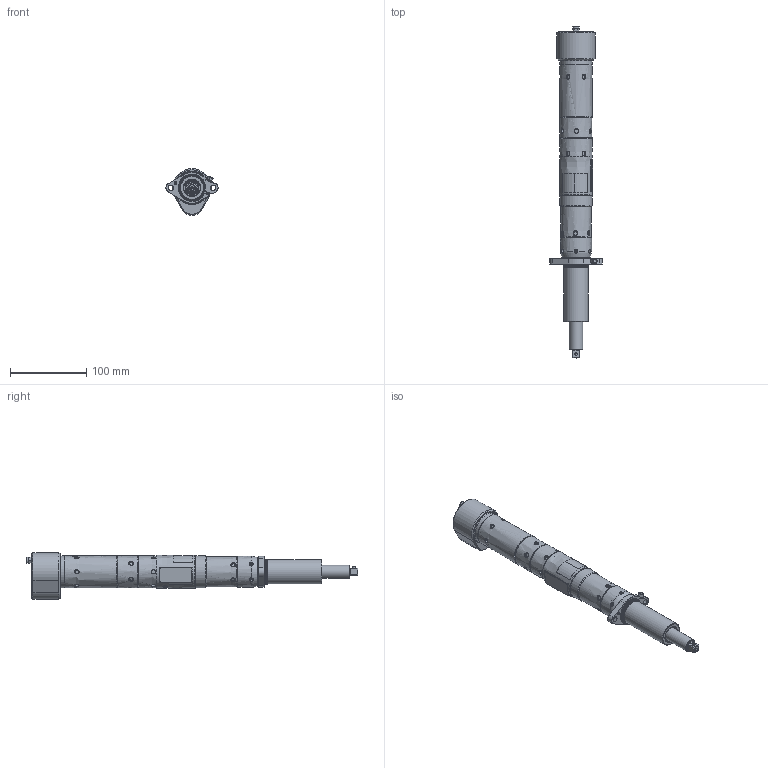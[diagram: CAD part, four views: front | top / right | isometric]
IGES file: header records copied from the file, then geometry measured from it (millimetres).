
Global section: file name: T:\siji\siji2\QA6 REMOTE SHUTOFF\45498474\45498474.igs; native system: Unigraphics Version X V2.0; preprocessor: Unigraphics NX IGES V2.0; date: 20070515.133706; units: inch
Bounding box: 68.26 x 434.58 x 60.94 mm (x, y, z)
Surface area: 84171.8 mm2 (no closed solid volume)
Topology: 0 solids, 0 shells, 501 faces, 10123 edges, 10016 vertices
Faces by surface type: revolution 299, extrusion 198, bspline 4
